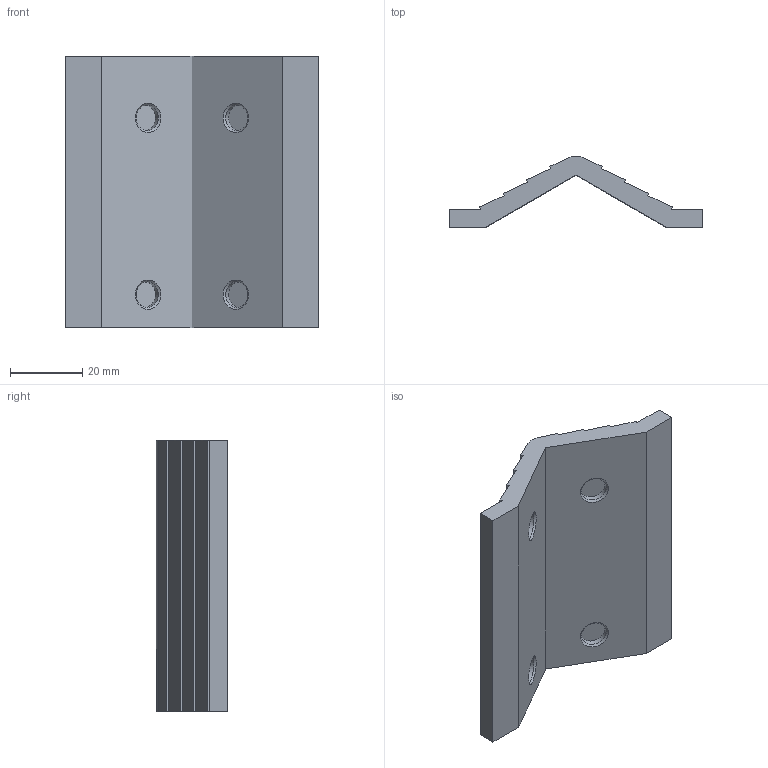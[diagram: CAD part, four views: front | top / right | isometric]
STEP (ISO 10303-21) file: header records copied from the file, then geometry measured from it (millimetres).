
FILE_DESCRIPTION(/* description */ ('','CAx-IF Rec.Pracs.---Representation and Presentation of Product Manufacturing Information (PMI)---4.0---2014-10-13'),/* implementation_level */ '2;1');
FILE_NAME(/* name */ 'Dach.step',/* time_stamp */ '2024-12-13T17:57:44+01:00',/* author */ (''),/* organization */ (''),/* preprocessor_version */ 'ST-DEVELOPER v20',/* originating_system */ 'Autodesk Translation Framework v13.20.0.188',/* authorisation */ '');
FILE_SCHEMA (('AP242_MANAGED_MODEL_BASED_3D_ENGINEERING_MIM_LF { 1 0 10303 442 1 1 4 }'));
Length unit declared in the file: millimetre
Products named in the file (1): 01_Dach_2
Bounding box: 70 x 19.67 x 75 mm (x, y, z)
Volume: 30496.1 mm3; surface area: 13785.5 mm2
Topology: 1 solids, 1 shells, 39 faces, 95 edges, 62 vertices
Faces by surface type: plane 30, cylinder 5, cone 4
Full cylindrical faces by diameter (mm): 7.1 x4
Entity records: 1171 total; most frequent: CARTESIAN_POINT 197, ORIENTED_EDGE 190, DIRECTION 189, EDGE_CURVE 95, LINE 81, VECTOR 81, VERTEX_POINT 62, AXIS2_PLACEMENT_3D 54
